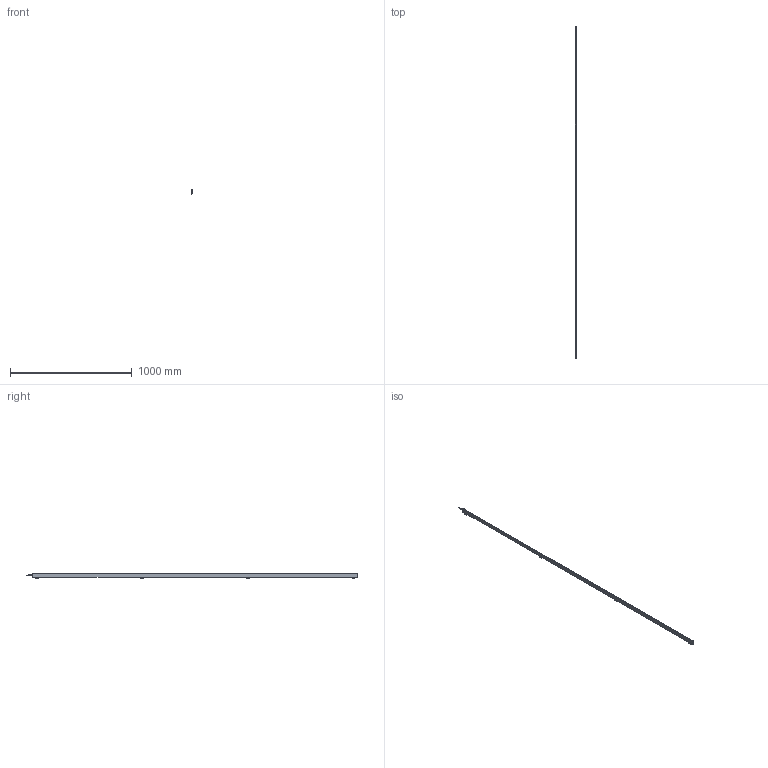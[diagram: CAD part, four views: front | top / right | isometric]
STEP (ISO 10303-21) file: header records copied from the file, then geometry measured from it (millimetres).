
FILE_DESCRIPTION (( 'STEP AP214' ), '1' );
FILE_NAME ('ILG-N-K2-2670mm.STEP', '2017-07-10T14:12:11', ( '' ), ( '' ), 'SwSTEP 2.0', 'SolidWorks 2016', '' );
FILE_SCHEMA (( 'AUTOMOTIVE_DESIGN' ));
Length unit declared in the file: millimetre
Products named in the file (1): ILG-N-K2-2670mm
Bounding box: 10.2 x 2723.5 x 42.41 mm (x, y, z)
Surface area: 445754.4 mm2 (no closed solid volume)
Topology: 0 solids, 17 shells, 822 faces, 2121 edges, 1329 vertices
Faces by surface type: plane 379, cylinder 305, cone 90, bspline 32, torus 16
Entity records: 36121 total; most frequent: CARTESIAN_POINT 7158, ORIENTED_EDGE 4195, DIRECTION 4057, EDGE_CURVE 2105, AXIS2_PLACEMENT_3D 1476, VERTEX_POINT 1329, VECTOR 1105, LINE 1105
